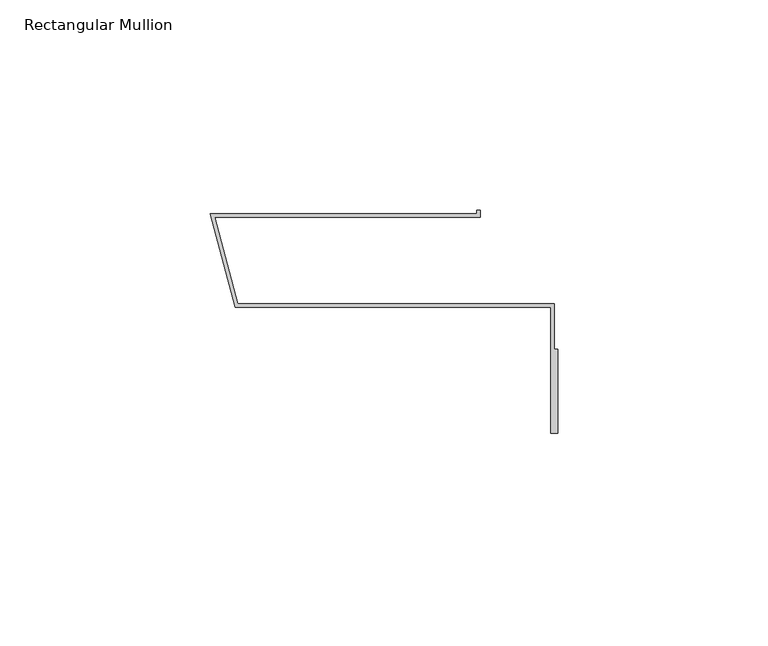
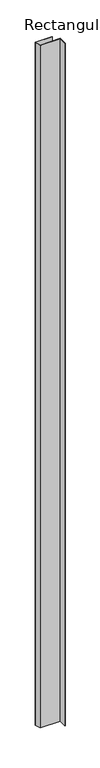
"""IFC4 building model written with IfcOpenShell, lengths in millimetres: member geometry, Rectangular Mullion : TI-V-05_01_Internal corner i L."""

from ifc_helpers import new_model, si_unit, frame, origin, place, context, project, spatial, polyline, outline, extrude, source, transform, mapped, element, save


def rectangular_mullion_f6077a82(model_context):
    return source(origin(), model_context, "Body", "SweptSolid", [
        extrude(outline(polyline([(-1.6, -23.0), (-76.6, -23.0), (-82.5484721, -0.8), (-19.2, -0.8), (-19.2, 0.0), (-18.4, 0.0), (-18.4, -1.6), (-81.5058918, -1.6), (-75.9861384, -22.2), (-0.8, -22.2), (-0.8, -33.0), (0.0, -33.0), (0.0, -53.0), (-1.6, -53.0), (-1.6, -23.0)])), frame((0.0, 0.0, -2708.3616932), z_axis=(0.0, 0.0, 1.0), x_axis=(1.0, 0.0, 0.0)), (0.0, 0.0, 1.0), 2708.3616932),
    ])


if __name__ == "__main__":
    model = new_model("IFC4")
    model_context = context("Model", 3, world=origin())
    ifc_project = project(units=[si_unit("LENGTHUNIT", "METRE", prefix="MILLI")], contexts=[model_context])
    site = spatial("IfcSite", under=ifc_project)
    building = spatial("IfcBuilding", under=site)
    placement = place(None, origin())
    rectangular_mullion_shape = rectangular_mullion_f6077a82(model_context)
    element("IfcMember", 1, ObjectType="Rectangular Mullion : TI-V-05_01_Internal corner i L", at=placement, inside=building, context=model_context, shape_type="MappedRepresentation", body=[
        mapped(rectangular_mullion_shape, transform((0.0, 0.0, 0.0), x_axis=(1.0, 0.0, 0.0), y_axis=(0.0, 1.0, 0.0), z_axis=(0.0, 0.0, 1.0))),
    ])
    save(model, "model.ifc")
